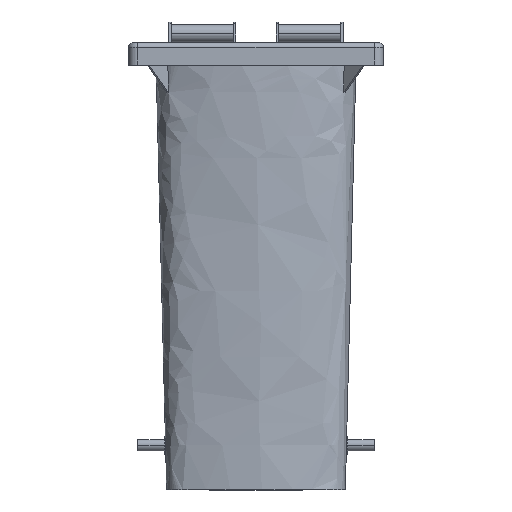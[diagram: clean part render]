
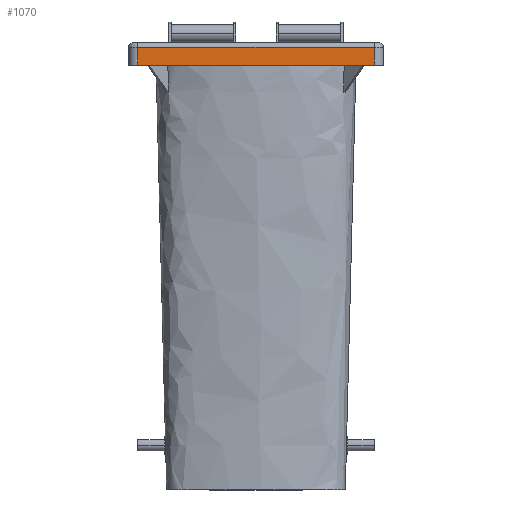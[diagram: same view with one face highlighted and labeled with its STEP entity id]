
A CAD part, top view. The second image highlights one B-rep face of the part: STEP entity #1070.
In plain terms, the highlighted planar face has unit normal (0, 0, 1).
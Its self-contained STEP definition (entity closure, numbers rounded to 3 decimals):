
#999 = EDGE_CURVE ( 'NONE', #1000, #1001, #10413, .T. ) ;
#1000 = VERTEX_POINT ( 'NONE', #10409 ) ;
#1001 = VERTEX_POINT ( 'NONE', #10408 ) ;
#1070 = ADVANCED_FACE ( 'NONE', ( #10643 ), #10642, .T. ) ;
#1071 = EDGE_LOOP ( 'NONE', ( #1072, #1073, #1075, #1076 ) ) ;
#1072 = ORIENTED_EDGE ( 'NONE', *, *, #1092, .T. ) ;
#1073 = ORIENTED_EDGE ( 'NONE', *, *, #1074, .T. ) ;
#1074 = EDGE_CURVE ( 'NONE', #1090, #1001, #10636, .T. ) ;
#1075 = ORIENTED_EDGE ( 'NONE', *, *, #999, .F. ) ;
#1076 = ORIENTED_EDGE ( 'NONE', *, *, #1077, .T. ) ;
#1077 = EDGE_CURVE ( 'NONE', #1000, #1093, #10192, .T. ) ;
#1090 = VERTEX_POINT ( 'NONE', #10692 ) ;
#1092 = EDGE_CURVE ( 'NONE', #1093, #1090, #10691, .T. ) ;
#1093 = VERTEX_POINT ( 'NONE', #10687 ) ;
#9743 = DIRECTION ( 'NONE',  ( 1., 0., 0. ) ) ;
#9773 = VECTOR ( 'NONE', #9743, 1000. ) ;
#10192 = LINE ( 'NONE', #10194, #9773 ) ;
#10194 = CARTESIAN_POINT ( 'NONE',  ( 265., 950., 570. ) ) ;
#10408 = CARTESIAN_POINT ( 'NONE',  ( -265., 990., 570. ) ) ;
#10409 = CARTESIAN_POINT ( 'NONE',  ( -265., 950., 570. ) ) ;
#10410 = DIRECTION ( 'NONE',  ( 0., 1., 0. ) ) ;
#10411 = VECTOR ( 'NONE', #10410, 1000. ) ;
#10412 = CARTESIAN_POINT ( 'NONE',  ( -265., 950., 570. ) ) ;
#10413 = LINE ( 'NONE', #10412, #10411 ) ;
#10633 = DIRECTION ( 'NONE',  ( -1., 0., 0. ) ) ;
#10634 = VECTOR ( 'NONE', #10633, 1000. ) ;
#10635 = CARTESIAN_POINT ( 'NONE',  ( 265., 990., 570. ) ) ;
#10636 = LINE ( 'NONE', #10635, #10634 ) ;
#10638 = DIRECTION ( 'NONE',  ( 1., 0., 0. ) ) ;
#10639 = DIRECTION ( 'NONE',  ( 0., 0., 1. ) ) ;
#10640 = AXIS2_PLACEMENT_3D ( 'NONE', #10641, #10639, #10638 ) ;
#10641 = CARTESIAN_POINT ( 'NONE',  ( 265., 950., 570. ) ) ;
#10642 = PLANE ( 'NONE',  #10640 ) ;
#10643 = FACE_OUTER_BOUND ( 'NONE', #1071, .T. ) ;
#10687 = CARTESIAN_POINT ( 'NONE',  ( 265., 950., 570. ) ) ;
#10688 = DIRECTION ( 'NONE',  ( 0., 1., 0. ) ) ;
#10689 = VECTOR ( 'NONE', #10688, 1000. ) ;
#10690 = CARTESIAN_POINT ( 'NONE',  ( 265., 950., 570. ) ) ;
#10691 = LINE ( 'NONE', #10690, #10689 ) ;
#10692 = CARTESIAN_POINT ( 'NONE',  ( 265., 990., 570. ) ) ;
